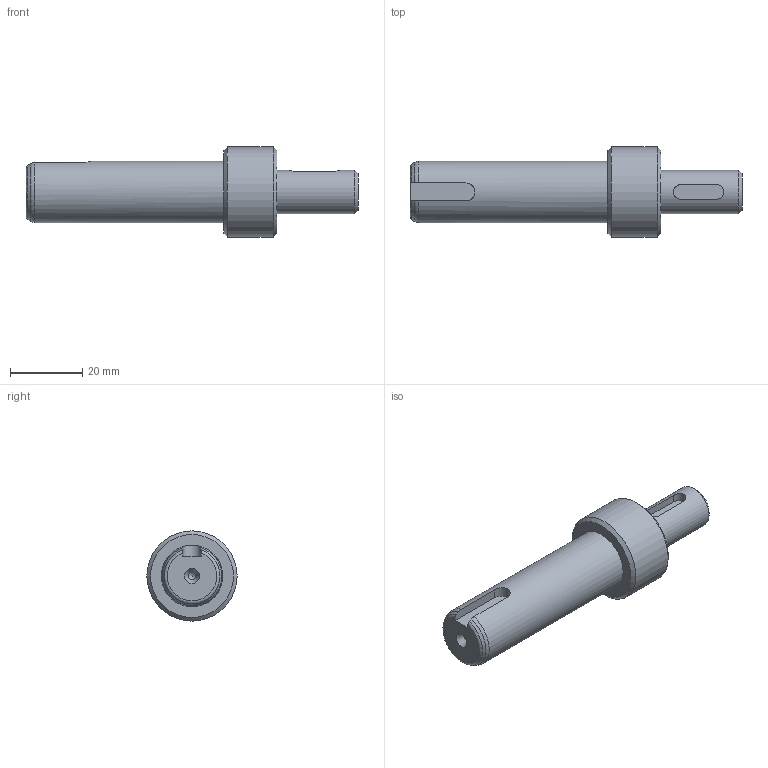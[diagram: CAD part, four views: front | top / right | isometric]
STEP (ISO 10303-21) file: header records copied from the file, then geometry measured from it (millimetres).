
FILE_DESCRIPTION(/* description */ (''),/* implementation_level */ '2;1');
FILE_NAME(/* name */ '',/* time_stamp */ '2026-07-02T09:05:48+09:00',/* author */ ('jhkim'),/* organization */ (''),/* preprocessor_version */ 'ST-DEVELOPER v20.1',/* originating_system */ 'Autodesk Inventor 2027',/* authorisation */ '');
FILE_SCHEMA (('AUTOMOTIVE_DESIGN { 1 0 10303 214 3 1 1 }'));
Length unit declared in the file: millimetre
Products named in the file (1): 서브 축
Bounding box: 92 x 25 x 25 mm (x, y, z)
Volume: 21622.3 mm3; surface area: 5960.2 mm2
Topology: 1 solids, 1 shells, 28 faces, 68 edges, 45 vertices
Faces by surface type: plane 10, cylinder 8, cone 8, torus 2
Full cylindrical faces by diameter (mm): 2 x2, 12 x1, 17 x1, 25 x1
Entity records: 918 total; most frequent: CARTESIAN_POINT 222, DIRECTION 137, ORIENTED_EDGE 132, EDGE_CURVE 66, AXIS2_PLACEMENT_3D 54, VERTEX_POINT 45, EDGE_LOOP 33, LINE 29
